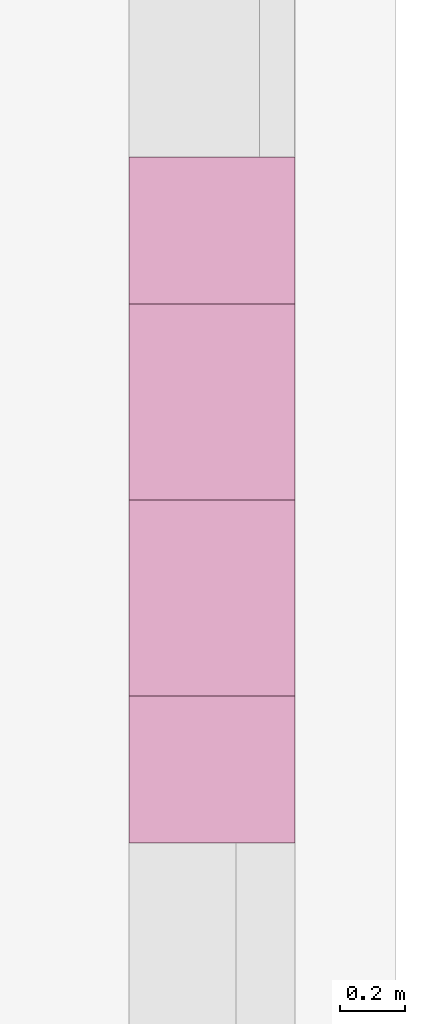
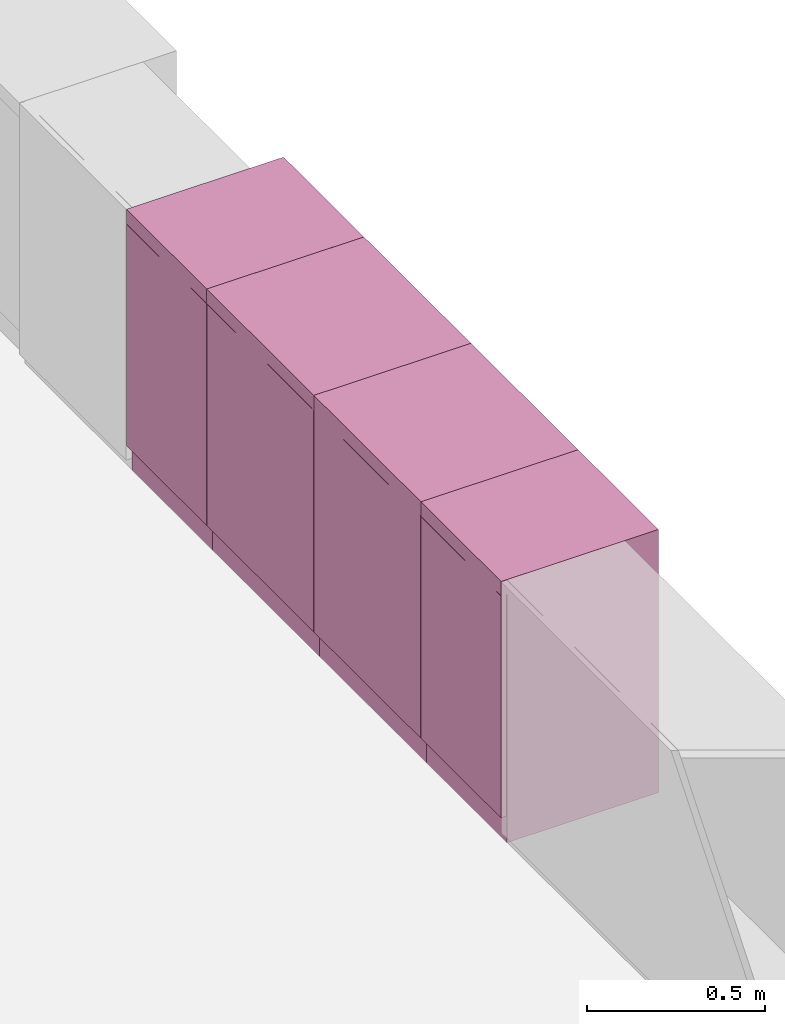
# One storey, part 90 of 94: 4 furnishings.
"""IFC2X3 building model written with IfcOpenShell, lengths in millimetres."""

from ifc_helpers import new_model, entity, si_unit, converted_unit, derived_unit, money_unit, direction, frame, origin_with_axes, place, context, subcontext, project, spatial, faceted_brep, source, transform, mapped, type_object, type_shapes, element, save


model = new_model("IFC2X3")

# Units and contexts
model_context = context("Model", 3, precision=0.01, world=origin_with_axes(), true_north=direction((0.0, 1.0)))
body_context = subcontext(model_context, "Body", "Model", "MODEL_VIEW")
ifc_project = project(units=[si_unit("LENGTHUNIT", "METRE", prefix="MILLI"), si_unit("AREAUNIT", "SQUARE_METRE"), si_unit("VOLUMEUNIT", "CUBIC_METRE"), converted_unit("PLANEANGLEUNIT", "DEGREE", entity("IfcPlaneAngleMeasure", 0.0174532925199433), si_unit("PLANEANGLEUNIT", "RADIAN"), dimensions=[0, 0, 0, 0, 0, 0, 0]), money_unit("EUR"), converted_unit("TIMEUNIT", "Year", entity("IfcTimeMeasure", 31557600.0), si_unit("TIMEUNIT", "SECOND"), dimensions=[0, 0, 1, 0, 0, 0, 0]), si_unit("MASSUNIT", "GRAM", prefix="KILO"), si_unit("THERMODYNAMICTEMPERATUREUNIT", "DEGREE_CELSIUS"), si_unit("LUMINOUSINTENSITYUNIT", "LUMEN"), si_unit("ENERGYUNIT", "JOULE", prefix="MEGA"), derived_unit("THERMALCONDUCTANCEUNIT", [(si_unit("POWERUNIT", "WATT"), 1), (si_unit("LENGTHUNIT", "METRE"), -1), (si_unit("THERMODYNAMICTEMPERATUREUNIT", "KELVIN"), -1)]), derived_unit("SPECIFICHEATCAPACITYUNIT", [(si_unit("ENERGYUNIT", "JOULE"), 1), (si_unit("MASSUNIT", "GRAM", prefix="KILO"), -1), (si_unit("THERMODYNAMICTEMPERATUREUNIT", "KELVIN"), -1)]), derived_unit("MASSDENSITYUNIT", [(si_unit("MASSUNIT", "GRAM", prefix="KILO"), 1), (si_unit("VOLUMEUNIT", "CUBIC_METRE"), -1)])], contexts=[model_context])

# Site, building, storey
site_placement = place(None, origin_with_axes())
site = spatial("IfcSite", under=ifc_project, at=site_placement, Name="<site naam>", CompositionType="ELEMENT")
building_placement = place(site_placement, origin_with_axes())
building = spatial("IfcBuilding", under=site, at=building_placement, Name="<Naam gebouw>", CompositionType="ELEMENT")
storey_placement = place(building_placement, frame((0.0, 0.0, 4250.0), z_axis=(0.0, 0.0, 1.0), x_axis=(1.0, 0.0, 0.0)))
storey = spatial("IfcBuildingStorey", under=building, at=storey_placement, Name="01 1e verdieping", CompositionType="ELEMENT", Elevation=4250.0)

# Furnishings
furnishing_element_type = type_object("IfcFurnishingElementType", Name="Onderkast recht 27")
shared_shape_1 = source(origin_with_axes(), body_context, "Body", "Brep", [
    faceted_brep([(0.0, -508.5221843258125, 850.0), (600.0, -508.5221843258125, 850.0), (600.0, -508.5221843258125, 900.0), (0.0, -508.5221843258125, 900.0), (0.0, 0.0, 850.0), (600.0, 0.0, 850.0), (600.0, 0.0, 900.0), (0.0, 0.0, 900.0)], [[[0, 1, 2, 3]], [[0, 4, 5, 1]], [[1, 5, 6, 2]], [[3, 2, 6, 7]], [[4, 0, 3, 7]], [[5, 4, 7, 6]]]),
    faceted_brep([(1.0, -490.5221843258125, 91.0), (599.0000000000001, -490.5221843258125, 91.0), (599.0000000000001, -508.5221843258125, 91.0), (1.0, -508.5221843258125, 91.0), (1.0, -490.5221843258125, 849.0), (599.0000000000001, -490.5221843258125, 849.0), (599.0000000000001, -508.5221843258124, 849.0), (1.0, -508.5221843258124, 849.0)], [[[0, 1, 2, 3]], [[0, 4, 5, 1]], [[1, 5, 6, 2]], [[3, 2, 6, 7]], [[4, 0, 3, 7]], [[5, 4, 7, 6]]]),
    faceted_brep([(18.0, -490.5221843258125, 90.0), (582.0000000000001, -490.5221843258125, 90.0), (582.0000000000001, -490.5221843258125, 108.0), (18.0, -490.5221843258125, 108.0), (18.0, 0.0, 90.0), (582.0000000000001, 0.0, 90.0), (582.0000000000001, 0.0, 108.0), (18.0, 0.0, 108.0)], [[[0, 1, 2, 3]], [[0, 4, 5, 1]], [[1, 5, 6, 2]], [[3, 2, 6, 7]], [[4, 0, 3, 7]], [[5, 4, 7, 6]]]),
    faceted_brep([(18.0, -490.5221843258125, 832.0), (18.0, -430.5221843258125, 832.0), (582.0000000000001, -430.5221843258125, 832.0), (582.0000000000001, -490.5221843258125, 832.0), (18.0, -490.5221843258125, 850.0), (18.0, -430.5221843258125, 850.0), (582.0000000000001, -430.5221843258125, 850.0), (582.0000000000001, -490.5221843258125, 850.0)], [[[0, 1, 2, 3]], [[0, 4, 5, 1]], [[1, 5, 6, 2]], [[3, 2, 6, 7]], [[4, 0, 3, 7]], [[5, 4, 7, 6]]]),
    faceted_brep([(582.0000000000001, 0.0, 832.0), (582.0000000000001, -60.0, 832.0), (18.0, -60.0, 832.0), (18.0, 0.0, 832.0), (582.0000000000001, 0.0, 850.0), (582.0000000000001, -60.0, 850.0), (18.0, -60.0, 850.0), (18.0, 0.0, 850.0)], [[[0, 1, 2, 3]], [[0, 4, 5, 1]], [[1, 5, 6, 2]], [[3, 2, 6, 7]], [[4, 0, 3, 7]], [[5, 4, 7, 6]]]),
    faceted_brep([(0.0, 0.0, 90.0), (0.0, -490.5221843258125, 90.0), (0.0, -490.5221843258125, 850.0), (0.0, 0.0, 850.0), (18.0, 0.0, 90.0), (18.0, -490.5221843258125, 90.0), (18.0, -490.5221843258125, 850.0), (18.0, 0.0, 850.0)], [[[0, 1, 2, 3]], [[0, 4, 5, 1]], [[1, 5, 6, 2]], [[3, 2, 6, 7]], [[4, 0, 3, 7]], [[5, 4, 7, 6]]]),
    faceted_brep([(600.0000000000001, -490.5221843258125, 90.0), (600.0000000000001, 0.0, 90.0), (600.0000000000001, 0.0, 850.0), (600.0000000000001, -490.5221843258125, 850.0), (582.0000000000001, -490.5221843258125, 90.0), (582.0000000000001, 0.0, 90.0), (582.0000000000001, 0.0, 850.0), (582.0000000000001, -490.5221843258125, 850.0)], [[[0, 1, 2, 3]], [[0, 4, 5, 1]], [[1, 5, 6, 2]], [[3, 2, 6, 7]], [[4, 0, 3, 7]], [[5, 4, 7, 6]]]),
    faceted_brep([(582.0000000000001, -9.0, 108.0), (18.00000000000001, -9.0, 108.0), (18.00000000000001, -9.0, 832.0), (582.0000000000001, -9.0, 832.0), (582.0000000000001, -18.0, 108.0), (18.00000000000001, -18.0, 108.0), (18.00000000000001, -18.0, 832.0), (582.0000000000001, -18.0, 832.0)], [[[0, 1, 2, 3]], [[0, 4, 5, 1]], [[1, 5, 6, 2]], [[3, 2, 6, 7]], [[4, 0, 3, 7]], [[5, 4, 7, 6]]]),
    faceted_brep([(0.0, -490.5221843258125, 0.0), (600.0000000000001, -490.5221843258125, 0.0), (600.0000000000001, -490.5221843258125, 90.0), (0.0, -490.5221843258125, 90.0), (0.0, 0.0, 0.0), (600.0000000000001, 0.0, 0.0), (600.0000000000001, 0.0, 90.0), (0.0, 0.0, 90.0)], [[[0, 1, 2, 3]], [[0, 4, 5, 1]], [[1, 5, 6, 2]], [[3, 2, 6, 7]], [[4, 0, 3, 7]], [[5, 4, 7, 6]]]),
])
for number, where, z_axis, x_axis, name in (
    (1, (51865.00000000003, 3578.49999853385, 0.0), (0.0, 0.0, 1.0), (0.0, -1.0, 0.0), "73_heg_Lege"),
    (2, (51865.00000000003, 2978.499998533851, 0.0), (0.0, 0.0, 1.0), (0.0, -1.0, 0.0), "73_heg_Lege"),
):
    element("IfcFurnishingElement", number, at=place(storey_placement, frame(where, z_axis=z_axis, x_axis=x_axis)), inside=storey, type_object=furnishing_element_type, Name=name, context=body_context, shape_type="MappedRepresentation", body=[
        mapped(shared_shape_1, transform((0.0, 0.0, 0.0))),
    ])
shared_shape_2 = source(origin_with_axes(), body_context, "Body", "Brep", [
    faceted_brep([(0.0, -508.5221843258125, 850.0), (449.9999999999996, -508.5221843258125, 850.0), (449.9999999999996, -508.5221843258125, 900.0), (0.0, -508.5221843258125, 900.0), (0.0, 0.0, 850.0), (449.9999999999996, 0.0, 850.0), (449.9999999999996, 0.0, 900.0), (0.0, 0.0, 900.0)], [[[0, 1, 2, 3]], [[0, 4, 5, 1]], [[1, 5, 6, 2]], [[3, 2, 6, 7]], [[4, 0, 3, 7]], [[5, 4, 7, 6]]]),
    faceted_brep([(1.0, -490.5221843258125, 91.0), (448.9999999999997, -490.5221843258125, 91.0), (448.9999999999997, -508.5221843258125, 91.0), (1.0, -508.5221843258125, 91.0), (1.0, -490.5221843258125, 849.0), (448.9999999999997, -490.5221843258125, 849.0), (448.9999999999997, -508.5221843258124, 849.0), (1.0, -508.5221843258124, 849.0)], [[[0, 1, 2, 3]], [[0, 4, 5, 1]], [[1, 5, 6, 2]], [[3, 2, 6, 7]], [[4, 0, 3, 7]], [[5, 4, 7, 6]]]),
    faceted_brep([(18.0, -490.5221843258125, 90.0), (431.9999999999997, -490.5221843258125, 90.0), (431.9999999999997, -490.5221843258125, 108.0), (18.0, -490.5221843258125, 108.0), (18.0, 0.0, 90.0), (431.9999999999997, 0.0, 90.0), (431.9999999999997, 0.0, 108.0), (18.0, 0.0, 108.0)], [[[0, 1, 2, 3]], [[0, 4, 5, 1]], [[1, 5, 6, 2]], [[3, 2, 6, 7]], [[4, 0, 3, 7]], [[5, 4, 7, 6]]]),
    faceted_brep([(18.0, -490.5221843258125, 832.0), (18.0, -430.5221843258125, 832.0), (431.9999999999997, -430.5221843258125, 832.0), (431.9999999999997, -490.5221843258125, 832.0), (18.0, -490.5221843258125, 850.0), (18.0, -430.5221843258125, 850.0), (431.9999999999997, -430.5221843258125, 850.0), (431.9999999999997, -490.5221843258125, 850.0)], [[[0, 1, 2, 3]], [[0, 4, 5, 1]], [[1, 5, 6, 2]], [[3, 2, 6, 7]], [[4, 0, 3, 7]], [[5, 4, 7, 6]]]),
    faceted_brep([(431.9999999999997, 0.0, 832.0), (431.9999999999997, -60.0, 832.0), (18.0, -60.0, 832.0), (18.0, 0.0, 832.0), (431.9999999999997, 0.0, 850.0), (431.9999999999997, -60.0, 850.0), (18.0, -60.0, 850.0), (18.0, 0.0, 850.0)], [[[0, 1, 2, 3]], [[0, 4, 5, 1]], [[1, 5, 6, 2]], [[3, 2, 6, 7]], [[4, 0, 3, 7]], [[5, 4, 7, 6]]]),
    faceted_brep([(0.0, 0.0, 90.0), (0.0, -490.5221843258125, 90.0), (0.0, -490.5221843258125, 850.0), (0.0, 0.0, 850.0), (18.0, 0.0, 90.0), (18.0, -490.5221843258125, 90.0), (18.0, -490.5221843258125, 850.0), (18.0, 0.0, 850.0)], [[[0, 1, 2, 3]], [[0, 4, 5, 1]], [[1, 5, 6, 2]], [[3, 2, 6, 7]], [[4, 0, 3, 7]], [[5, 4, 7, 6]]]),
    faceted_brep([(449.9999999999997, -490.5221843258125, 90.0), (449.9999999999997, 0.0, 90.0), (449.9999999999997, 0.0, 850.0), (449.9999999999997, -490.5221843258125, 850.0), (431.9999999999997, -490.5221843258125, 90.0), (431.9999999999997, 0.0, 90.0), (431.9999999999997, 0.0, 850.0), (431.9999999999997, -490.5221843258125, 850.0)], [[[0, 1, 2, 3]], [[0, 4, 5, 1]], [[1, 5, 6, 2]], [[3, 2, 6, 7]], [[4, 0, 3, 7]], [[5, 4, 7, 6]]]),
    faceted_brep([(431.9999999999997, -9.0, 108.0), (18.00000000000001, -9.0, 108.0), (18.00000000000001, -9.0, 832.0), (431.9999999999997, -9.0, 832.0), (431.9999999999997, -18.0, 108.0), (18.00000000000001, -18.0, 108.0), (18.00000000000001, -18.0, 832.0), (431.9999999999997, -18.0, 832.0)], [[[0, 1, 2, 3]], [[0, 4, 5, 1]], [[1, 5, 6, 2]], [[3, 2, 6, 7]], [[4, 0, 3, 7]], [[5, 4, 7, 6]]]),
    faceted_brep([(0.0, -490.5221843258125, 0.0), (449.9999999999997, -490.5221843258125, 0.0), (449.9999999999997, -490.5221843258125, 90.0), (0.0, -490.5221843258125, 90.0), (0.0, 0.0, 0.0), (449.9999999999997, 0.0, 0.0), (449.9999999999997, 0.0, 90.0), (0.0, 0.0, 90.0)], [[[0, 1, 2, 3]], [[0, 4, 5, 1]], [[1, 5, 6, 2]], [[3, 2, 6, 7]], [[4, 0, 3, 7]], [[5, 4, 7, 6]]]),
])
type_shapes(furnishing_element_type, [shared_shape_1, shared_shape_2])
for number, where, z_axis, x_axis, name in (
    (3, (51865.00000000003, 4028.49999853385, 0.0), (0.0, 0.0, 1.0), (0.0, -1.0, 0.0), "73_heg_Lege"),
    (4, (51865.00000000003, 2378.499998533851, 0.0), (0.0, 0.0, 1.0), (0.0, -1.0, 0.0), "73_heg_Lege"),
):
    element("IfcFurnishingElement", number, at=place(storey_placement, frame(where, z_axis=z_axis, x_axis=x_axis)), inside=storey, type_object=furnishing_element_type, Name=name, context=body_context, shape_type="MappedRepresentation", body=[
        mapped(shared_shape_2, transform((0.0, 0.0, 0.0))),
    ])

save(model, "model.ifc")
